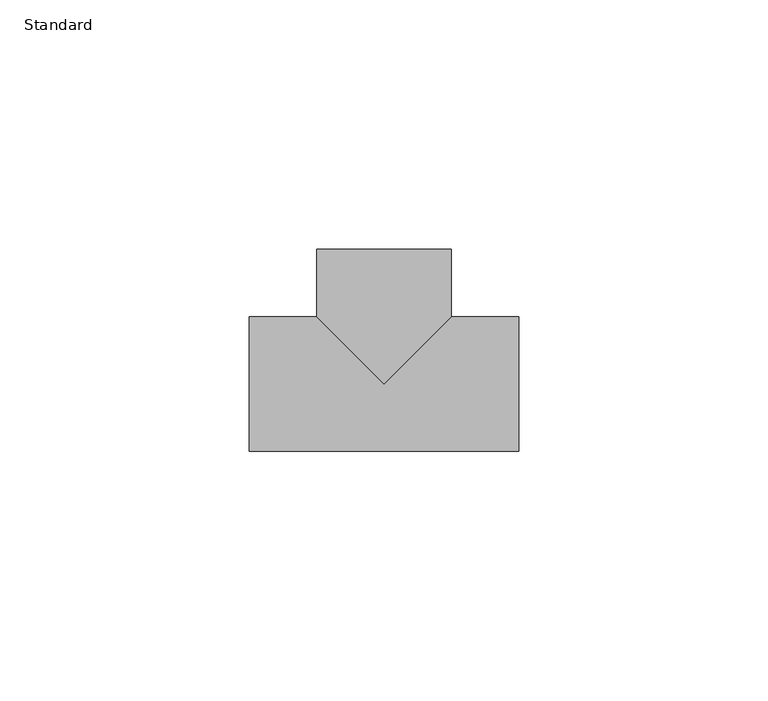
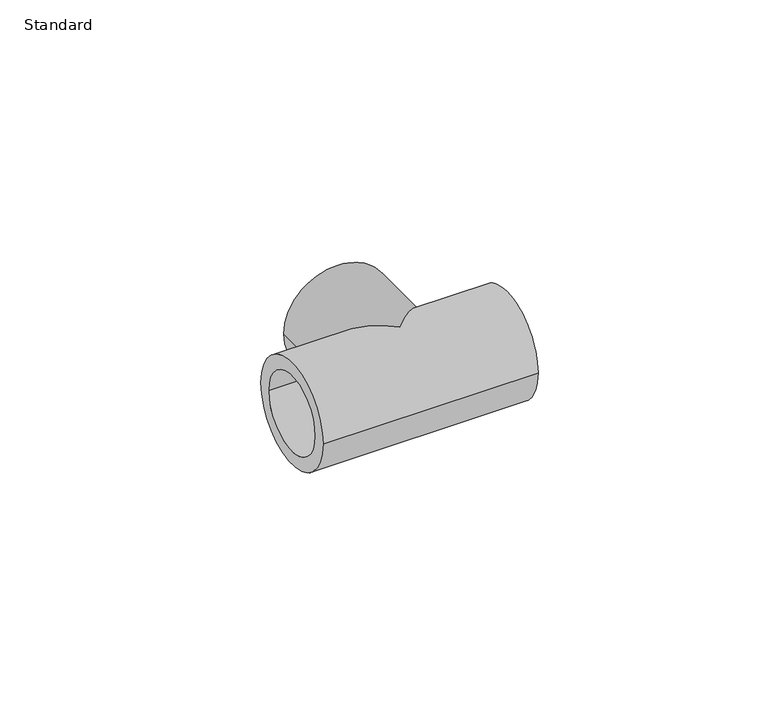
"""IFC4 building model written with IfcOpenShell, lengths in millimetres: pipe fitting geometry, Durapipe_PipeFitting_PVC_Tee90degEqual : Standard."""

from ifc_helpers import new_model, si_unit, frame, origin, place, context, project, spatial, polyline, circle_curve, ellipse_curve, source, transform, mapped, element, save
from ifc_brep_helpers import plane_surface, cylinder_surface, revolved_surface, advanced_brep


def standard_27df0c5f(model_context):
    return source(origin(), model_context, "Body", "AdvancedBrep", [
        advanced_brep(
        [(-13.5, 27.0, 0.0), (13.5, 27.0, 0.0), (-10.0, 27.0, 0.0), (10.0, 27.0, 0.0), (-13.5, 13.5, 0.0), (0.0, 0.0, 13.5), (13.5, 13.5, 0.0), (0.0, 0.0, -13.5), (-27.0, -13.5, 0.0), (-27.0, 13.5, 0.0), (-27.0, -10.0, 0.0), (-27.0, 10.0, 0.0), (27.0, -13.5, 0.0), (27.0, 13.5, 0.0), (27.0, 10.0, 0.0), (27.0, -10.0, 0.0), (10.0, 11.0, 0.0), (-10.0, 11.0, 0.0), (0.0, 11.0, 0.0), (11.0, -10.0, 0.0), (11.0, 10.0, 0.0), (11.0, 0.0, 0.0), (-11.0, -10.0, 0.0), (-11.0, 10.0, 0.0), (-11.0, 0.0, 0.0)],
        [
            (0, 1, circle_curve(frame((0.0, 27.0, 0.0), z_axis=(0.0, 1.0, 0.0), x_axis=(1.0, 0.0, 0.0)), 13.5)),
            (1, 0, circle_curve(frame((0.0, 27.0, 0.0), z_axis=(0.0, 1.0, 0.0), x_axis=(1.0, 0.0, 0.0)), 13.5)),
            (2, 3, circle_curve(frame((0.0, 27.0, 0.0), z_axis=(0.0, -1.0, 0.0), x_axis=(-1.0, 0.0, 0.0)), 10.0)),
            (3, 2, circle_curve(frame((0.0, 27.0, 0.0), z_axis=(0.0, -1.0, 0.0), x_axis=(-1.0, 0.0, 0.0)), 10.0)),
            (0, 4),
            (4, 5, ellipse_curve(frame((0.0, 0.0, 0.0), z_axis=(0.7071067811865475, 0.7071067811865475, 0.0), x_axis=(-0.7071067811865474, 0.7071067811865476, 0.0)), 19.0918831, 13.5)),
            (5, 6, ellipse_curve(frame((0.0, 0.0, 0.0), z_axis=(-0.7071067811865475, 0.7071067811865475, 0.0), x_axis=(0.7071067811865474, 0.7071067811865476, 0.0)), 19.0918831, 13.5)),
            (6, 1),
            (6, 7, ellipse_curve(frame((0.0, 0.0, 0.0), z_axis=(-0.7071067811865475, 0.7071067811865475, 0.0), x_axis=(0.7071067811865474, 0.7071067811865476, 0.0)), 19.0918831, 13.5)),
            (7, 4, ellipse_curve(frame((0.0, 0.0, 0.0), z_axis=(0.7071067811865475, 0.7071067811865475, 0.0), x_axis=(-0.7071067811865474, 0.7071067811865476, 0.0)), 19.0918831, 13.5)),
            (8, 9, circle_curve(frame((-27.0, 0.0, 0.0), z_axis=(-1.0, 0.0, 0.0), x_axis=(0.0, 1.0, 0.0)), 13.5)),
            (9, 8, circle_curve(frame((-27.0, 0.0, 0.0), z_axis=(-1.0, 0.0, 0.0), x_axis=(0.0, 1.0, 0.0)), 13.5)),
            (10, 11, circle_curve(frame((-27.0, 0.0, 0.0), z_axis=(1.0, 0.0, 0.0), x_axis=(0.0, 1.0, 0.0)), 10.0)),
            (11, 10, circle_curve(frame((-27.0, 0.0, 0.0), z_axis=(1.0, 0.0, 0.0), x_axis=(0.0, 1.0, 0.0)), 10.0)),
            (12, 13, circle_curve(frame((27.0, 0.0, 0.0), z_axis=(1.0, 0.0, 0.0), x_axis=(0.0, 1.0, 0.0)), 13.5)),
            (13, 12, circle_curve(frame((27.0, 0.0, 0.0), z_axis=(1.0, 0.0, 0.0), x_axis=(0.0, 1.0, 0.0)), 13.5)),
            (14, 15, circle_curve(frame((27.0, 0.0, 0.0), z_axis=(-1.0, 0.0, 0.0), x_axis=(0.0, 1.0, 0.0)), 10.0)),
            (15, 14, circle_curve(frame((27.0, 0.0, 0.0), z_axis=(-1.0, 0.0, 0.0), x_axis=(0.0, 1.0, 0.0)), 10.0)),
            (8, 12),
            (13, 6),
            (4, 9),
            (16, 3),
            (2, 17),
            (17, 16, circle_curve(frame((0.0, 11.0, 0.0), z_axis=(0.0, -1.0, 0.0), x_axis=(-1.0, 0.0, 0.0)), 10.0)),
            (16, 17, circle_curve(frame((0.0, 11.0, 0.0), z_axis=(0.0, -1.0, 0.0), x_axis=(-1.0, 0.0, 0.0)), 10.0)),
            (17, 18),
            (18, 16),
            (19, 15),
            (14, 20),
            (20, 19, circle_curve(frame((11.0, 0.0, 0.0), z_axis=(-1.0, 0.0, 0.0), x_axis=(0.0, 1.0, 0.0)), 10.0)),
            (19, 20, circle_curve(frame((11.0, 0.0, 0.0), z_axis=(-1.0, 0.0, 0.0), x_axis=(0.0, 1.0, 0.0)), 10.0)),
            (20, 21),
            (21, 19),
            (10, 22),
            (22, 23, circle_curve(frame((-11.0, 0.0, 0.0), z_axis=(1.0, 0.0, 0.0), x_axis=(0.0, 1.0, 0.0)), 10.0)),
            (23, 11),
            (23, 22, circle_curve(frame((-11.0, 0.0, 0.0), z_axis=(1.0, 0.0, 0.0), x_axis=(0.0, 1.0, 0.0)), 10.0)),
            (22, 24),
            (24, 23),
        ],
        [
            plane_surface(frame((0.0, 27.0, 0.0), z_axis=(0.0, 1.0, 0.0), x_axis=(0.0, 0.0, 1.0))),
            cylinder_surface(frame((0.0, 27.0, 0.0), z_axis=(0.0, 1.0, 0.0), x_axis=(1.0, 0.0, 0.0)), 13.5),
            plane_surface(frame((-27.0, 0.0, 0.0), z_axis=(-1.0, 0.0, 0.0), x_axis=(0.0, 0.0, 1.0))),
            plane_surface(frame((27.0, 0.0, 0.0), z_axis=(1.0, 0.0, 0.0), x_axis=(0.0, 0.0, 1.0))),
            cylinder_surface(frame((-27.0, 0.0, 0.0), z_axis=(-1.0, 0.0, 0.0), x_axis=(0.0, 1.0, 0.0)), 13.5),
            revolved_surface(polyline([(-10.0, 11.0, 0.0), (-10.0, 27.0, 0.0)]), (0.0, 2002.0, 0.0), (0.0, -1.0, 0.0)),
            plane_surface(frame((0.0, 11.0, 0.0), z_axis=(0.0, 1.0, 0.0), x_axis=(-1.0, 0.0, 0.0))),
            revolved_surface(polyline([(11.0, 10.0, 0.0), (27.0, 10.0, 0.0)]), (2003.5, 0.0, 0.0), (-1.0, 0.0, 0.0)),
            plane_surface(frame((11.0, 0.0, 0.0), z_axis=(1.0, 0.0, 0.0), x_axis=(0.0, 1.0, 0.0))),
            revolved_surface(polyline([(-27.0, 10.0, 0.0), (-11.0, 10.0, 0.0)]), (2003.5, 0.0, 0.0), (-1.0, 0.0, 0.0)),
            plane_surface(frame((-11.0, 0.0, 0.0), z_axis=(-1.0, 0.0, 0.0), x_axis=(0.0, 1.0, 0.0))),
        ],
        [
            (0, [[1, 2], [3, 4]]),
            (1, [[-1, 5, 6, 7, 8]]),
            (1, [[-2, -8, 9, 10, -5]]),
            (2, [[11, 12], [13, 14]]),
            (3, [[15, 16], [17, 18]]),
            (4, [[-11, 19, -16, 20, -7, -6, 21]]),
            (4, [[-12, -21, -10, -9, -20, -15, -19]]),
            (5, [[22, -3, 23, 24]]),
            (5, [[-22, 25, -23, -4]]),
            (6, [[-24, 26, 27]]),
            (6, [[-25, -27, -26]]),
            (7, [[28, -17, 29, 30]]),
            (7, [[-28, 31, -29, -18]]),
            (8, [[-30, 32, 33]]),
            (8, [[-31, -33, -32]]),
            (9, [[34, 35, 36, -13]]),
            (9, [[-34, -14, -36, 37]]),
            (10, [[-35, 38, 39]]),
            (10, [[-37, -39, -38]]),
        ],
    ),
    ])


if __name__ == "__main__":
    model = new_model("IFC4")
    model_context = context("Model", 3, world=origin())
    ifc_project = project(units=[si_unit("LENGTHUNIT", "METRE", prefix="MILLI")], contexts=[model_context])
    site = spatial("IfcSite", under=ifc_project)
    building = spatial("IfcBuilding", under=site)
    placement = place(None, origin())
    standard_shape = standard_27df0c5f(model_context)
    element("IfcPipeFitting", 1, ObjectType="Durapipe_PipeFitting_PVC_Tee90degEqual : Standard", at=placement, inside=building, context=model_context, shape_type="MappedRepresentation", body=[
        mapped(standard_shape, transform((0.0, 0.0, 0.0), x_axis=(1.0, 0.0, 0.0), y_axis=(0.0, 1.0, 0.0), z_axis=(0.0, 0.0, 1.0))),
    ])
    save(model, "model.ifc")
